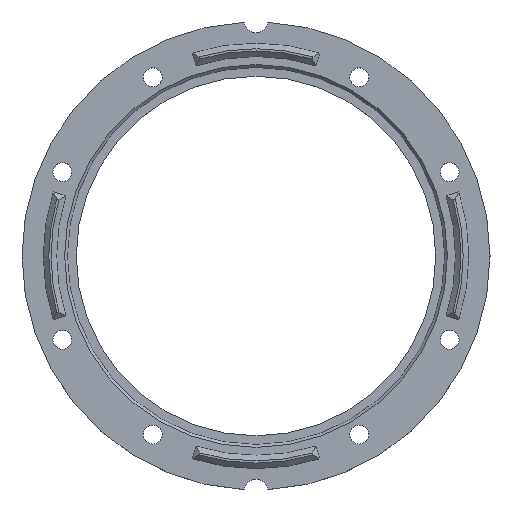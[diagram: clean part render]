
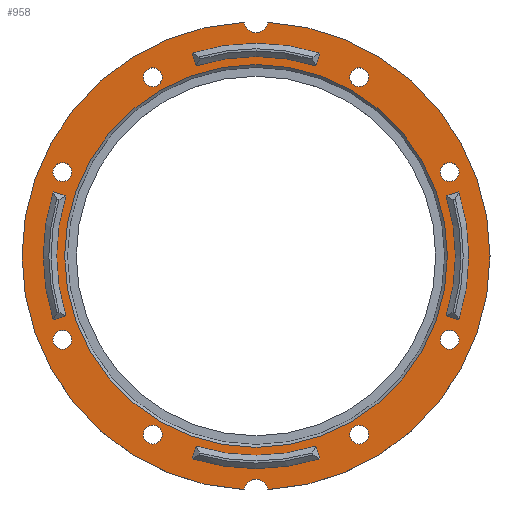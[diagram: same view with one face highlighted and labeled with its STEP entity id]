
A CAD part, top view. The second image highlights one B-rep face of the part: STEP entity #958.
In plain terms, the highlighted planar face has unit normal (0, 0, 1).
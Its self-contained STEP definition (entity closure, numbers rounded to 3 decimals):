
#126=VECTOR('',#1390,1.);
#128=VECTOR('',#1400,1.);
#130=VECTOR('',#1409,1.);
#132=VECTOR('',#1419,1.);
#134=VECTOR('',#1428,1.);
#136=VECTOR('',#1438,1.);
#138=VECTOR('',#1447,1.);
#140=VECTOR('',#1457,1.);
#146=LINE('',#1121,#126);
#148=LINE('',#1133,#128);
#150=LINE('',#1154,#130);
#152=LINE('',#1166,#132);
#154=LINE('',#1187,#134);
#156=LINE('',#1199,#136);
#158=LINE('',#1220,#138);
#160=LINE('',#1232,#140);
#186=PLANE('',#1074);
#188=CIRCLE('',#974,38.45);
#191=CIRCLE('',#980,36.05);
#192=CIRCLE('',#983,38.45);
#195=CIRCLE('',#989,36.05);
#196=CIRCLE('',#992,38.45);
#199=CIRCLE('',#998,36.05);
#200=CIRCLE('',#1001,38.45);
#203=CIRCLE('',#1007,36.05);
#240=CIRCLE('',#1071,1.7);
#241=CIRCLE('',#1073,1.7);
#242=CIRCLE('',#1075,1.7);
#243=CIRCLE('',#1076,1.7);
#244=CIRCLE('',#1077,2.15);
#245=CIRCLE('',#1078,42.3);
#246=CIRCLE('',#1079,2.15);
#247=CIRCLE('',#1080,1.7);
#248=CIRCLE('',#1081,1.7);
#249=CIRCLE('',#1082,1.7);
#250=CIRCLE('',#1083,1.7);
#251=CIRCLE('',#1084,34.6);
#256=VERTEX_POINT('',#1106);
#257=VERTEX_POINT('',#1108);
#260=VERTEX_POINT('',#1120);
#262=VERTEX_POINT('',#1130);
#264=VERTEX_POINT('',#1139);
#265=VERTEX_POINT('',#1141);
#268=VERTEX_POINT('',#1153);
#270=VERTEX_POINT('',#1163);
#272=VERTEX_POINT('',#1172);
#273=VERTEX_POINT('',#1174);
#276=VERTEX_POINT('',#1186);
#278=VERTEX_POINT('',#1196);
#280=VERTEX_POINT('',#1205);
#281=VERTEX_POINT('',#1207);
#284=VERTEX_POINT('',#1219);
#286=VERTEX_POINT('',#1229);
#324=VERTEX_POINT('',#1333);
#325=VERTEX_POINT('',#1336);
#326=VERTEX_POINT('',#1339);
#327=VERTEX_POINT('',#1341);
#328=VERTEX_POINT('',#1343);
#329=VERTEX_POINT('',#1344);
#330=VERTEX_POINT('',#1346);
#331=VERTEX_POINT('',#1348);
#332=VERTEX_POINT('',#1350);
#333=VERTEX_POINT('',#1352);
#334=VERTEX_POINT('',#1354);
#335=VERTEX_POINT('',#1356);
#336=VERTEX_POINT('',#1358);
#357=EDGE_CURVE('',#257,#256,#188,.T.);
#362=EDGE_CURVE('',#256,#260,#146,.T.);
#366=EDGE_CURVE('',#260,#262,#191,.T.);
#367=EDGE_CURVE('',#262,#257,#148,.T.);
#369=EDGE_CURVE('',#265,#264,#192,.T.);
#374=EDGE_CURVE('',#264,#268,#150,.T.);
#378=EDGE_CURVE('',#268,#270,#195,.T.);
#379=EDGE_CURVE('',#270,#265,#152,.T.);
#381=EDGE_CURVE('',#273,#272,#196,.T.);
#386=EDGE_CURVE('',#272,#276,#154,.T.);
#390=EDGE_CURVE('',#276,#278,#199,.T.);
#391=EDGE_CURVE('',#278,#273,#156,.T.);
#393=EDGE_CURVE('',#281,#280,#200,.T.);
#398=EDGE_CURVE('',#280,#284,#158,.T.);
#402=EDGE_CURVE('',#284,#286,#203,.T.);
#403=EDGE_CURVE('',#286,#281,#160,.T.);
#441=EDGE_CURVE('',#324,#324,#240,.T.);
#442=EDGE_CURVE('',#325,#325,#241,.T.);
#443=EDGE_CURVE('',#326,#326,#242,.T.);
#444=EDGE_CURVE('',#327,#327,#243,.T.);
#445=EDGE_CURVE('',#328,#329,#244,.T.);
#446=EDGE_CURVE('',#330,#329,#245,.T.);
#447=EDGE_CURVE('',#330,#331,#246,.T.);
#448=EDGE_CURVE('',#328,#331,#245,.T.);
#449=EDGE_CURVE('',#332,#332,#247,.T.);
#450=EDGE_CURVE('',#333,#333,#248,.T.);
#451=EDGE_CURVE('',#334,#334,#249,.T.);
#452=EDGE_CURVE('',#335,#335,#250,.T.);
#453=EDGE_CURVE('',#336,#336,#251,.T.);
#606=ORIENTED_EDGE('',*,*,#357,.T.);
#607=ORIENTED_EDGE('',*,*,#362,.T.);
#608=ORIENTED_EDGE('',*,*,#366,.T.);
#609=ORIENTED_EDGE('',*,*,#367,.T.);
#610=ORIENTED_EDGE('',*,*,#369,.T.);
#611=ORIENTED_EDGE('',*,*,#374,.T.);
#612=ORIENTED_EDGE('',*,*,#378,.T.);
#613=ORIENTED_EDGE('',*,*,#379,.T.);
#614=ORIENTED_EDGE('',*,*,#381,.T.);
#615=ORIENTED_EDGE('',*,*,#386,.T.);
#616=ORIENTED_EDGE('',*,*,#390,.T.);
#617=ORIENTED_EDGE('',*,*,#391,.T.);
#618=ORIENTED_EDGE('',*,*,#393,.T.);
#619=ORIENTED_EDGE('',*,*,#398,.T.);
#620=ORIENTED_EDGE('',*,*,#402,.T.);
#621=ORIENTED_EDGE('',*,*,#403,.T.);
#622=ORIENTED_EDGE('',*,*,#443,.T.);
#623=ORIENTED_EDGE('',*,*,#444,.T.);
#624=ORIENTED_EDGE('',*,*,#445,.T.);
#625=ORIENTED_EDGE('',*,*,#446,.F.);
#626=ORIENTED_EDGE('',*,*,#447,.T.);
#627=ORIENTED_EDGE('',*,*,#448,.F.);
#628=ORIENTED_EDGE('',*,*,#449,.T.);
#629=ORIENTED_EDGE('',*,*,#450,.T.);
#630=ORIENTED_EDGE('',*,*,#451,.T.);
#631=ORIENTED_EDGE('',*,*,#452,.T.);
#632=ORIENTED_EDGE('',*,*,#453,.F.);
#633=ORIENTED_EDGE('',*,*,#442,.T.);
#634=ORIENTED_EDGE('',*,*,#441,.T.);
#753=EDGE_LOOP('',(#606,#607,#608,#609));
#754=EDGE_LOOP('',(#610,#611,#612,#613));
#755=EDGE_LOOP('',(#614,#615,#616,#617));
#756=EDGE_LOOP('',(#618,#619,#620,#621));
#757=EDGE_LOOP('',(#622));
#758=EDGE_LOOP('',(#623));
#759=EDGE_LOOP('',(#624,#625,#626,#627));
#760=EDGE_LOOP('',(#628));
#761=EDGE_LOOP('',(#629));
#762=EDGE_LOOP('',(#630));
#763=EDGE_LOOP('',(#631));
#764=EDGE_LOOP('',(#632));
#765=EDGE_LOOP('',(#633));
#766=EDGE_LOOP('',(#634));
#873=FACE_BOUND('',#753,.T.);
#874=FACE_BOUND('',#754,.T.);
#875=FACE_BOUND('',#755,.T.);
#876=FACE_BOUND('',#756,.T.);
#877=FACE_BOUND('',#757,.T.);
#878=FACE_BOUND('',#758,.T.);
#879=FACE_BOUND('',#759,.T.);
#880=FACE_BOUND('',#760,.T.);
#881=FACE_BOUND('',#761,.T.);
#882=FACE_BOUND('',#762,.T.);
#883=FACE_BOUND('',#763,.T.);
#884=FACE_BOUND('',#764,.T.);
#885=FACE_BOUND('',#765,.T.);
#886=FACE_BOUND('',#766,.T.);
#958=ADVANCED_FACE('',(#873,#874,#875,#876,#877,#878,#879,#880,#881,#882,
#883,#884,#885,#886),#186,.T.);
#974=AXIS2_PLACEMENT_3D('',#1107,#1384,#1385);
#980=AXIS2_PLACEMENT_3D('',#1131,#1397,#1398);
#983=AXIS2_PLACEMENT_3D('',#1140,#1403,#1404);
#989=AXIS2_PLACEMENT_3D('',#1164,#1416,#1417);
#992=AXIS2_PLACEMENT_3D('',#1173,#1422,#1423);
#998=AXIS2_PLACEMENT_3D('',#1197,#1435,#1436);
#1001=AXIS2_PLACEMENT_3D('',#1206,#1441,#1442);
#1007=AXIS2_PLACEMENT_3D('',#1230,#1454,#1455);
#1071=AXIS2_PLACEMENT_3D('',#1332,#1573,#1574);
#1073=AXIS2_PLACEMENT_3D('',#1335,#1577,#1578);
#1074=AXIS2_PLACEMENT_3D('',#1337,#1579,$);
#1075=AXIS2_PLACEMENT_3D('',#1338,#1580,#1581);
#1076=AXIS2_PLACEMENT_3D('',#1340,#1582,#1583);
#1077=AXIS2_PLACEMENT_3D('',#1342,#1584,#1585);
#1078=AXIS2_PLACEMENT_3D('',#1345,#1586,#1587);
#1079=AXIS2_PLACEMENT_3D('',#1347,#1588,#1589);
#1080=AXIS2_PLACEMENT_3D('',#1349,#1590,#1591);
#1081=AXIS2_PLACEMENT_3D('',#1351,#1592,#1593);
#1082=AXIS2_PLACEMENT_3D('',#1353,#1594,#1595);
#1083=AXIS2_PLACEMENT_3D('',#1355,#1596,#1597);
#1084=AXIS2_PLACEMENT_3D('',#1357,#1598,#1599);
#1106=CARTESIAN_POINT('',(36.67,-11.562,9.));
#1107=CARTESIAN_POINT('',(0.,0.,9.));
#1108=CARTESIAN_POINT('',(36.67,11.562,9.));
#1120=CARTESIAN_POINT('',(34.381,-10.84,9.));
#1121=CARTESIAN_POINT('',(17.763,-5.601,9.));
#1130=CARTESIAN_POINT('',(34.381,10.84,9.));
#1131=CARTESIAN_POINT('',(0.,0.,9.));
#1133=CARTESIAN_POINT('',(17.763,5.601,9.));
#1139=CARTESIAN_POINT('',(-11.562,-36.67,9.));
#1140=CARTESIAN_POINT('',(0.,0.,9.));
#1141=CARTESIAN_POINT('',(11.562,-36.67,9.));
#1153=CARTESIAN_POINT('',(-10.84,-34.381,9.));
#1154=CARTESIAN_POINT('',(-5.601,-17.763,9.));
#1163=CARTESIAN_POINT('',(10.84,-34.381,9.));
#1164=CARTESIAN_POINT('',(0.,0.,9.));
#1166=CARTESIAN_POINT('',(5.601,-17.763,9.));
#1172=CARTESIAN_POINT('',(-36.67,11.562,9.));
#1173=CARTESIAN_POINT('',(0.,0.,9.));
#1174=CARTESIAN_POINT('',(-36.67,-11.562,9.));
#1186=CARTESIAN_POINT('',(-34.381,10.84,9.));
#1187=CARTESIAN_POINT('',(-17.763,5.601,9.));
#1196=CARTESIAN_POINT('',(-34.381,-10.84,9.));
#1197=CARTESIAN_POINT('',(0.,0.,9.));
#1199=CARTESIAN_POINT('',(-17.763,-5.601,9.));
#1205=CARTESIAN_POINT('',(11.562,36.67,9.));
#1206=CARTESIAN_POINT('',(0.,0.,9.));
#1207=CARTESIAN_POINT('',(-11.562,36.67,9.));
#1219=CARTESIAN_POINT('',(10.84,34.381,9.));
#1220=CARTESIAN_POINT('',(5.601,17.763,9.));
#1229=CARTESIAN_POINT('',(-10.84,34.381,9.));
#1230=CARTESIAN_POINT('',(0.,0.,9.));
#1232=CARTESIAN_POINT('',(-5.601,17.763,9.));
#1332=CARTESIAN_POINT('',(18.65,-32.303,9.));
#1333=CARTESIAN_POINT('',(16.95,-32.303,9.));
#1335=CARTESIAN_POINT('',(-18.65,-32.303,9.));
#1336=CARTESIAN_POINT('',(-20.35,-32.303,9.));
#1337=CARTESIAN_POINT('',(0.,0.,9.));
#1338=CARTESIAN_POINT('',(18.65,32.303,9.));
#1339=CARTESIAN_POINT('',(16.95,32.303,9.));
#1340=CARTESIAN_POINT('',(-18.65,32.303,9.));
#1341=CARTESIAN_POINT('',(-20.35,32.303,9.));
#1342=CARTESIAN_POINT('',(0.,-42.5,9.));
#1343=CARTESIAN_POINT('',(-2.135,-42.246,9.));
#1344=CARTESIAN_POINT('',(2.135,-42.246,9.));
#1345=CARTESIAN_POINT('',(0.,0.,9.));
#1346=CARTESIAN_POINT('',(2.135,42.246,9.));
#1347=CARTESIAN_POINT('',(0.,42.5,9.));
#1348=CARTESIAN_POINT('',(-2.135,42.246,9.));
#1349=CARTESIAN_POINT('',(35.,15.155,9.));
#1350=CARTESIAN_POINT('',(33.3,15.155,9.));
#1351=CARTESIAN_POINT('',(35.,-15.155,9.));
#1352=CARTESIAN_POINT('',(33.3,-15.155,9.));
#1353=CARTESIAN_POINT('',(-35.,15.155,9.));
#1354=CARTESIAN_POINT('',(-33.3,15.155,9.));
#1355=CARTESIAN_POINT('',(-35.,-15.155,9.));
#1356=CARTESIAN_POINT('',(-33.3,-15.155,9.));
#1357=CARTESIAN_POINT('',(0.,0.,9.));
#1358=CARTESIAN_POINT('',(34.6,0.,9.));
#1384=DIRECTION('',(0.,0.,-1.));
#1385=DIRECTION('',(0.,-38.45,0.));
#1390=DIRECTION('',(-0.954,0.301,0.));
#1397=DIRECTION('',(0.,0.,1.));
#1398=DIRECTION('',(0.,-36.05,0.));
#1400=DIRECTION('',(0.954,0.301,0.));
#1403=DIRECTION('',(0.,0.,-1.));
#1404=DIRECTION('',(-38.45,0.,0.));
#1409=DIRECTION('',(0.301,0.954,0.));
#1416=DIRECTION('',(0.,0.,1.));
#1417=DIRECTION('',(-36.05,0.,0.));
#1419=DIRECTION('',(0.301,-0.954,0.));
#1422=DIRECTION('',(0.,0.,-1.));
#1423=DIRECTION('',(0.,38.45,0.));
#1428=DIRECTION('',(0.954,-0.301,0.));
#1435=DIRECTION('',(0.,0.,1.));
#1436=DIRECTION('',(0.,36.05,0.));
#1438=DIRECTION('',(-0.954,-0.301,0.));
#1441=DIRECTION('',(0.,0.,-1.));
#1442=DIRECTION('',(38.45,0.,0.));
#1447=DIRECTION('',(-0.301,-0.954,0.));
#1454=DIRECTION('',(0.,0.,1.));
#1455=DIRECTION('',(36.05,0.,0.));
#1457=DIRECTION('',(-0.301,0.954,0.));
#1573=DIRECTION('',(0.,0.,-1.));
#1574=DIRECTION('',(1.7,0.,0.));
#1577=DIRECTION('',(0.,0.,-1.));
#1578=DIRECTION('',(1.7,0.,0.));
#1579=DIRECTION('',(0.,0.,1.));
#1580=DIRECTION('',(0.,0.,-1.));
#1581=DIRECTION('',(1.7,0.,0.));
#1582=DIRECTION('',(0.,0.,-1.));
#1583=DIRECTION('',(1.7,0.,0.));
#1584=DIRECTION('',(0.,0.,-1.));
#1585=DIRECTION('',(-2.15,0.,0.));
#1586=DIRECTION('',(0.,0.,-1.));
#1587=DIRECTION('',(42.3,0.,0.));
#1588=DIRECTION('',(0.,0.,-1.));
#1589=DIRECTION('',(2.15,0.,0.));
#1590=DIRECTION('',(0.,0.,-1.));
#1591=DIRECTION('',(1.7,0.,0.));
#1592=DIRECTION('',(0.,0.,-1.));
#1593=DIRECTION('',(1.7,0.,0.));
#1594=DIRECTION('',(0.,0.,-1.));
#1595=DIRECTION('',(-1.7,0.,0.));
#1596=DIRECTION('',(0.,0.,-1.));
#1597=DIRECTION('',(-1.7,0.,0.));
#1598=DIRECTION('',(0.,0.,1.));
#1599=DIRECTION('',(-34.6,0.,0.));
